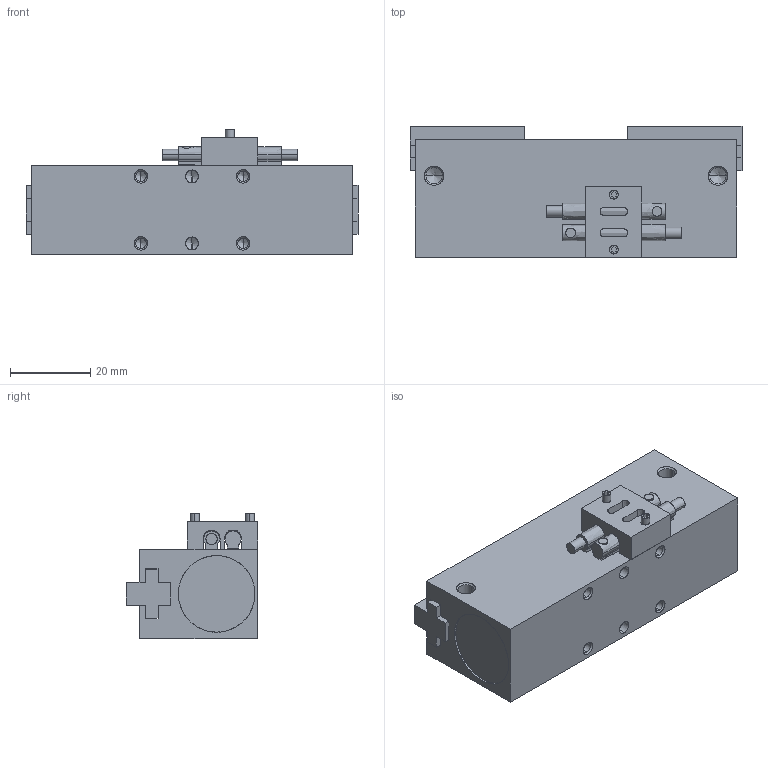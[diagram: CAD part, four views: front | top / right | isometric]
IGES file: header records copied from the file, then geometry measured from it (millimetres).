
Start section: SolidWorks IGES file using analytic representation for surfaces
Global section: file name: C:\Users\jmkuhnes\Pictures\PERSONAL\AGLP-4\AGLP-4 OPEN in MM.IGS; native system: SolidWorks 2013; preprocessor: SolidWorks 2013; author: jmkuhnes; date: 141031.125023; units: millimetre
Bounding box: 82.55 x 32.59 x 31.11 mm (x, y, z)
Surface area: 17614.9 mm2 (no closed solid volume)
Topology: 0 solids, 0 shells, 252 faces, 2668 edges, 2632 vertices
Faces by surface type: revolution 144, bspline 108
